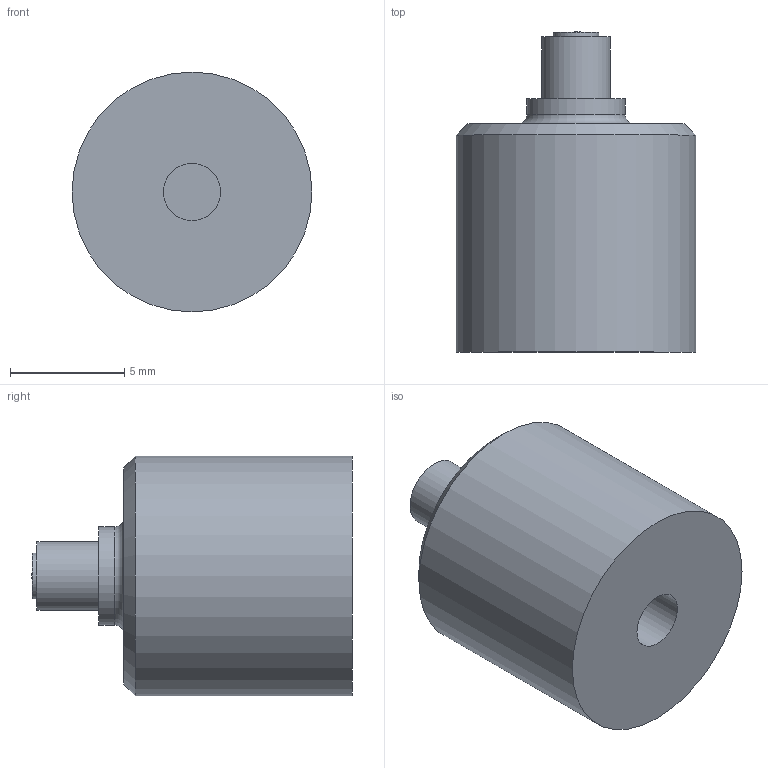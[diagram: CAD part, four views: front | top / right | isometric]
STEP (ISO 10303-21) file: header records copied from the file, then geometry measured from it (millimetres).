
FILE_DESCRIPTION(/* description */ ('Alibre Inc.'),/* implementation_level */ '2;1');
FILE_NAME(/* name */ 'export-17A8A1DF-8C2C-4933-B6AE-20CF0336E65E',/* time_stamp */ '2023-10-16T12:10:04+02:00',/* author */ (''),/* organization */ (''),/* preprocessor_version */ 'ST-DEVELOPER v17',/* originating_system */ 'Alibre',/* authorisation */ '');
FILE_SCHEMA (('CONFIG_CONTROL_DESIGN'));
Length unit declared in the file: millimetre
Bounding box: 10.5 x 14.03 x 10.5 mm (x, y, z)
Volume: 884.6 mm3; surface area: 578 mm2
Topology: 1 solids, 4 shells, 362 faces, 970 edges, 647 vertices
Faces by surface type: bspline 206, plane 130, cylinder 17, cone 6, torus 3
Full cylindrical faces by diameter (mm): 0.15 x2, 0.3 x1, 0.7 x1, 1 x1, 1.1 x1, 1.3 x1, 1.9 x1, 2 x1, 2.5 x1, 3 x1, 4.3 x1, 10.5 x1
Entity records: 11221 total; most frequent: CARTESIAN_POINT 3775, ORIENTED_EDGE 1872, EDGE_CURVE 936, DIRECTION 741, VERTEX_POINT 635, VECTOR 477, LINE 477, EDGE_LOOP 421
